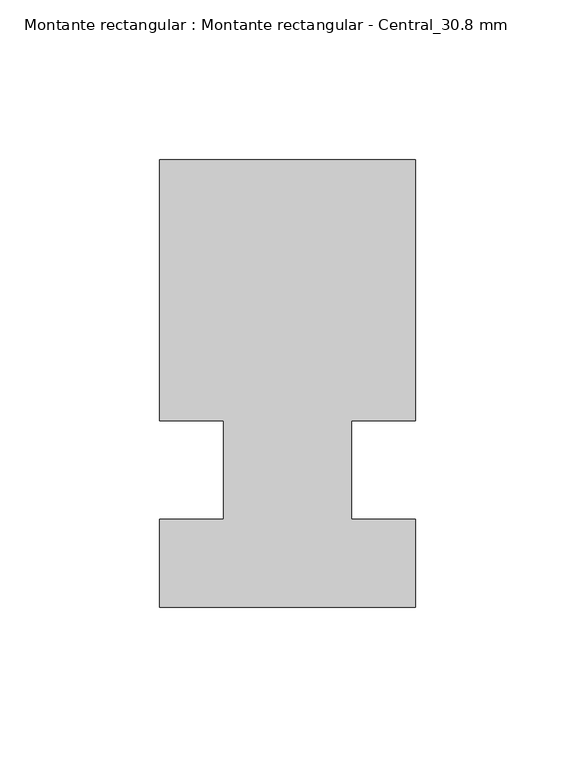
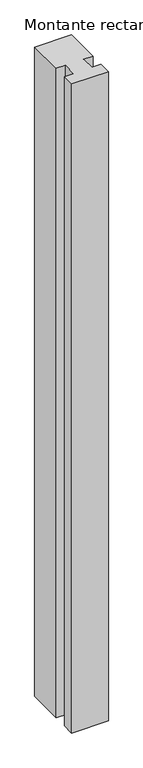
"""IFC4 building model written with IfcOpenShell, lengths in millimetres: member geometry, Montante rectangular : Montante rectangular - Central_30.8 mm."""

from ifc_helpers import new_model, si_unit, frame, origin, place, context, project, spatial, polyline, outline, extrude, source, transform, mapped, element, save


def montante_rectangular_montante_rectangular_central_30_8_mm_e5800b63(model_context):
    return source(origin(), model_context, "Body", "SweptSolid", [
        extrude(outline(polyline([(-40.0, 80.0), (40.0, 80.0), (40.0, -1.6), (20.0, -1.6), (20.0, -32.4), (40.0, -32.4), (40.0, -60.0), (-40.0, -60.0), (-40.0, -32.4), (-20.0, -32.4), (-20.0, -1.6), (-40.0, -1.6), (-40.0, 80.0)])), frame((0.0, 0.0, -1500.0), z_axis=(0.0, 0.0, 1.0), x_axis=(1.0, 0.0, 0.0)), (0.0, 0.0, 1.0), 1500.0),
    ])


if __name__ == "__main__":
    model = new_model("IFC4")
    model_context = context("Model", 3, world=origin())
    ifc_project = project(units=[si_unit("LENGTHUNIT", "METRE", prefix="MILLI")], contexts=[model_context])
    site = spatial("IfcSite", under=ifc_project)
    building = spatial("IfcBuilding", under=site)
    placement = place(None, origin())
    montante_rectangular_montante_rectangular_central_30_8_mm_shape = montante_rectangular_montante_rectangular_central_30_8_mm_e5800b63(model_context)
    element("IfcMember", 1, ObjectType="Montante rectangular : Montante rectangular - Central_30.8 mm", at=placement, inside=building, context=model_context, shape_type="MappedRepresentation", body=[
        mapped(montante_rectangular_montante_rectangular_central_30_8_mm_shape, transform((0.0, 0.0, 0.0), x_axis=(1.0, 0.0, 0.0), y_axis=(0.0, 1.0, 0.0), z_axis=(0.0, 0.0, 1.0))),
    ])
    save(model, "model.ifc")
